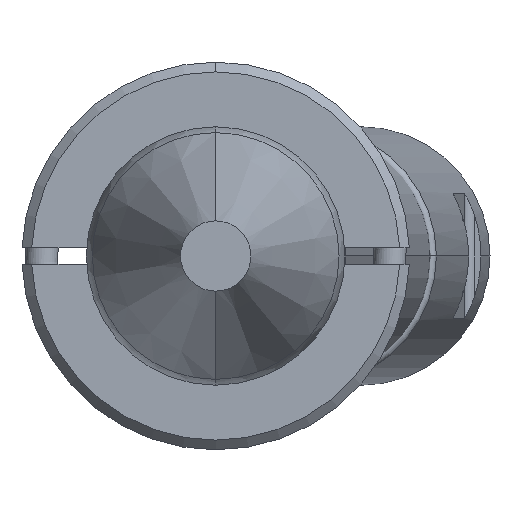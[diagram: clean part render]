
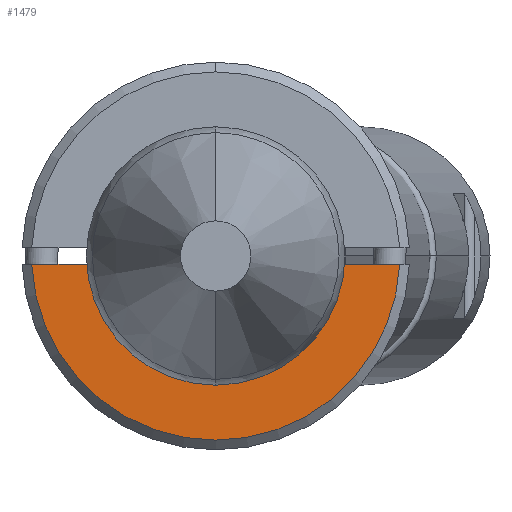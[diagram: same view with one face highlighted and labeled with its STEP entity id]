
A CAD part, front view. The second image highlights one B-rep face of the part: STEP entity #1479.
In plain terms, the highlighted planar face has unit normal (0, -1, 0).
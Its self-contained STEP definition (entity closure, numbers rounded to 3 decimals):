
#49 = CARTESIAN_POINT ( 'NONE',  ( 0., -6., 0. ) ) ;
#87 = EDGE_CURVE ( 'NONE', #2305, #1507, #502, .T. ) ;
#236 = EDGE_CURVE ( 'NONE', #2305, #3147, #1746, .T. ) ;
#271 = DIRECTION ( 'NONE',  ( 1., 0., 0. ) ) ;
#324 = PLANE ( 'NONE',  #3962 ) ;
#421 = CIRCLE ( 'NONE', #2805, 5.7 ) ;
#427 = VECTOR ( 'NONE', #271, 1000. ) ;
#502 = LINE ( 'NONE', #2122, #427 ) ;
#510 = EDGE_CURVE ( 'NONE', #3646, #1507, #421, .T. ) ;
#673 = ORIENTED_EDGE ( 'NONE', *, *, #510, .T. ) ;
#744 = EDGE_CURVE ( 'NONE', #3646, #3337, #3504, .T. ) ;
#879 = EDGE_CURVE ( 'NONE', #3147, #3337, #3380, .T. ) ;
#1037 = CARTESIAN_POINT ( 'NONE',  ( -6., -6., -0.25 ) ) ;
#1260 = DIRECTION ( 'NONE',  ( 0., 0., -1. ) ) ;
#1269 = CARTESIAN_POINT ( 'NONE',  ( -6., -6., 0. ) ) ;
#1279 = VECTOR ( 'NONE', #1334, 1000. ) ;
#1334 = DIRECTION ( 'NONE',  ( 1., 0., 0. ) ) ;
#1389 = CARTESIAN_POINT ( 'NONE',  ( 5.695, -6., -0.25 ) ) ;
#1410 = ORIENTED_EDGE ( 'NONE', *, *, #87, .F. ) ;
#1479 = ADVANCED_FACE ( 'NONE', ( #1890 ), #324, .T. ) ;
#1507 = VERTEX_POINT ( 'NONE', #1389 ) ;
#1520 = CARTESIAN_POINT ( 'NONE',  ( -5.695, -6., -0.25 ) ) ;
#1712 = DIRECTION ( 'NONE',  ( 0., 0., -1. ) ) ;
#1746 = CIRCLE ( 'NONE', #3525, 3.2 ) ;
#1890 = FACE_OUTER_BOUND ( 'NONE', #1920, .T. ) ;
#1920 = EDGE_LOOP ( 'NONE', ( #2158, #673, #1410, #3587, #3904 ) ) ;
#2122 = CARTESIAN_POINT ( 'NONE',  ( -6., -6., -0.25 ) ) ;
#2158 = ORIENTED_EDGE ( 'NONE', *, *, #744, .F. ) ;
#2305 = VERTEX_POINT ( 'NONE', #2332 ) ;
#2332 = CARTESIAN_POINT ( 'NONE',  ( 3.19, -6., -0.25 ) ) ;
#2395 = AXIS2_PLACEMENT_3D ( 'NONE', #2842, #2883, #2459 ) ;
#2459 = DIRECTION ( 'NONE',  ( 0., 0., -1. ) ) ;
#2531 = DIRECTION ( 'NONE',  ( 0., -1., 0. ) ) ;
#2805 = AXIS2_PLACEMENT_3D ( 'NONE', #49, #3613, #1712 ) ;
#2842 = CARTESIAN_POINT ( 'NONE',  ( 0., -6., 0. ) ) ;
#2883 = DIRECTION ( 'NONE',  ( 0., 1., 0. ) ) ;
#2909 = CARTESIAN_POINT ( 'NONE',  ( 0., -6., -3.2 ) ) ;
#3147 = VERTEX_POINT ( 'NONE', #2909 ) ;
#3251 = CARTESIAN_POINT ( 'NONE',  ( -3.19, -6., -0.25 ) ) ;
#3337 = VERTEX_POINT ( 'NONE', #3251 ) ;
#3380 = CIRCLE ( 'NONE', #2395, 3.2 ) ;
#3504 = LINE ( 'NONE', #1037, #1279 ) ;
#3510 = DIRECTION ( 'NONE',  ( 0., 1., 0. ) ) ;
#3525 = AXIS2_PLACEMENT_3D ( 'NONE', #3821, #3510, #1260 ) ;
#3587 = ORIENTED_EDGE ( 'NONE', *, *, #236, .T. ) ;
#3613 = DIRECTION ( 'NONE',  ( 0., -1., 0. ) ) ;
#3646 = VERTEX_POINT ( 'NONE', #1520 ) ;
#3789 = DIRECTION ( 'NONE',  ( 0., 0., -1. ) ) ;
#3821 = CARTESIAN_POINT ( 'NONE',  ( 0., -6., 0. ) ) ;
#3904 = ORIENTED_EDGE ( 'NONE', *, *, #879, .T. ) ;
#3962 = AXIS2_PLACEMENT_3D ( 'NONE', #1269, #2531, #3789 ) ;
